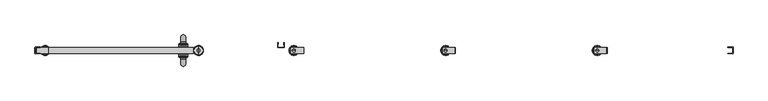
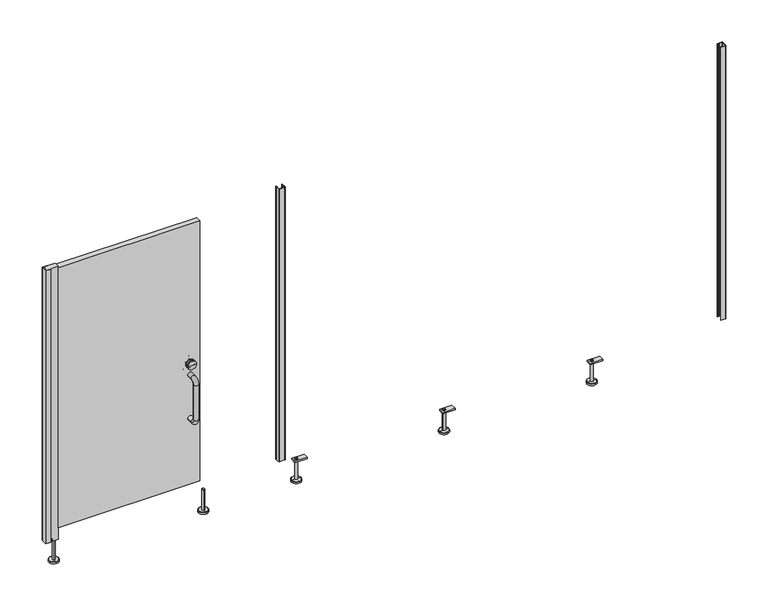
"""IFC4 building model written with IfcOpenShell, lengths in millimetres: proxy geometry, Partition_EuroStyle-Bradley_Corp-ADAStall_3StandardStall-NEP-LOFT : Partition_EuroStyle-Bradley_Corp-ADAStall_3StandardStall-NEP-LOFT."""

from ifc_helpers import new_model, si_unit, point, frame, frame_2d, origin, place, context, project, spatial, polyline, circle_curve, ellipse_curve, trimmed, segment, composite_curve, outline, extrude, source, transform, mapped, element, save
from ifc_brep_helpers import plane_surface, cylinder_surface, revolved_surface, advanced_brep


def specialty_equipment_d99f570f(model_context):
    return source(origin(), model_context, "Body", "SolidModel", [
        extrude(outline(composite_curve([segment(polyline([(4215.7203249, -1562.4911004), (4215.7203249, -1560.9925148)]), True, "CONTINUOUS"), segment(trimmed(circle_curve(frame_2d((4216.719417, -1560.9960822)), 0.9990984), [point((4215.7203249, -1560.9925148))], [point((4217.5991049, -1560.5224296))], False, "CARTESIAN"), True, "CONTINUOUS"), segment(polyline([(4217.5991049, -1560.5224296), (4224.862755, -1560.6435396)]), True, "CONTINUOUS"), segment(trimmed(circle_curve(frame_2d((4225.7202701, -1561.1610855)), 1.0015917), [point((4224.862755, -1560.6435396))], [point((4226.594565, -1560.6724196))], False, "CARTESIAN"), True, "CONTINUOUS"), segment(polyline([(4226.594565, -1560.6724196), (4244.2307782, -1560.9664751)]), True, "CONTINUOUS"), segment(trimmed(circle_curve(frame_2d((4244.2201048, -1558.9662832)), 2.0002204), [point((4244.2307782, -1560.9664751))], [point((4246.2203252, -1558.9662832))], True, "CARTESIAN"), True, "CONTINUOUS"), segment(polyline([(4246.2203252, -1558.9662832), (4246.2203251, -1525.0819842)]), True, "CONTINUOUS"), segment(trimmed(circle_curve(frame_2d((4244.2212312, -1525.0329646)), 1.9996948), [point((4246.2203251, -1525.0819842))], [point((4244.2203251, -1523.03327))], True, "CARTESIAN"), True, "CONTINUOUS"), segment(polyline([(4244.2203251, -1523.03327), (4226.5943238, -1523.3273213)]), True, "CONTINUOUS"), segment(trimmed(circle_curve(frame_2d((4225.7202701, -1522.8382242)), 1.0015917), [point((4226.5943238, -1523.3273213))], [point((4224.862755, -1523.3557701))], False, "CARTESIAN"), True, "CONTINUOUS"), segment(polyline([(4224.862755, -1523.3557701), (4217.5991049, -1523.4768801)]), True, "CONTINUOUS"), segment(trimmed(circle_curve(frame_2d((4216.719417, -1523.0032275)), 0.9990984), [point((4217.5991049, -1523.4768801))], [point((4215.7203249, -1523.0067949))], False, "CARTESIAN"), True, "CONTINUOUS"), segment(polyline([(4215.7203249, -1523.0067949), (4215.7203249, -1521.5082093), (4246.1911451, -1520.9998702)]), True, "CONTINUOUS"), segment(trimmed(circle_curve(frame_2d((4246.1911451, -1523.0290502)), 2.02918), [point((4246.1911451, -1520.9998702))], [point((4248.2203251, -1523.0290502))], False, "CARTESIAN"), True, "CONTINUOUS"), segment(polyline([(4248.2203251, -1523.0290502), (4248.2203251, -1560.9702595)]), True, "CONTINUOUS"), segment(trimmed(circle_curve(frame_2d((4246.1911451, -1560.9702595)), 2.02918), [point((4248.2203251, -1560.9702595))], [point((4246.1911451, -1562.9994395))], False, "CARTESIAN"), True, "CONTINUOUS"), segment(polyline([(4246.1911451, -1562.9994395), (4215.7203249, -1562.4911004)]), True, "CONTINUOUS")], self_intersect=False)), frame((0.0, 0.0, 150.0), z_axis=(0.0, 0.0, 1.0), x_axis=(1.0, 0.0, 0.0)), (0.0, 0.0, 1.0), 1855.0),
        extrude(outline(composite_curve([segment(polyline([(1394.518717, -1491.4999998), (1396.0173026, -1491.4999998)]), True, "CONTINUOUS"), segment(trimmed(circle_curve(frame_2d((1396.0137352, -1492.4990918)), 0.9990984), [point((1396.0173026, -1491.4999998))], [point((1396.4873879, -1493.3787798))], False, "CARTESIAN"), True, "CONTINUOUS"), segment(polyline([(1396.4873879, -1493.3787798), (1396.3662779, -1500.6424298)]), True, "CONTINUOUS"), segment(trimmed(circle_curve(frame_2d((1395.848732, -1501.4999449)), 1.0015917), [point((1396.3662779, -1500.6424298))], [point((1396.3373979, -1502.3742398))], False, "CARTESIAN"), True, "CONTINUOUS"), segment(polyline([(1396.3373979, -1502.3742398), (1396.0433424, -1520.0104531)]), True, "CONTINUOUS"), segment(trimmed(circle_curve(frame_2d((1398.0435342, -1519.9997796)), 2.0002204), [point((1396.0433424, -1520.0104531))], [point((1398.0435342, -1522.0))], True, "CARTESIAN"), True, "CONTINUOUS"), segment(polyline([(1398.0435342, -1522.0), (1431.9278332, -1522.0)]), True, "CONTINUOUS"), segment(trimmed(circle_curve(frame_2d((1431.9768528, -1520.0009061)), 1.9996948), [point((1431.9278332, -1522.0))], [point((1433.9765475, -1520.0))], True, "CARTESIAN"), True, "CONTINUOUS"), segment(polyline([(1433.9765475, -1520.0), (1433.6824961, -1502.3739987)]), True, "CONTINUOUS"), segment(trimmed(circle_curve(frame_2d((1434.1715932, -1501.4999449)), 1.0015917), [point((1433.6824961, -1502.3739987))], [point((1433.6540473, -1500.6424298))], False, "CARTESIAN"), True, "CONTINUOUS"), segment(polyline([(1433.6540473, -1500.6424298), (1433.5329373, -1493.3787798)]), True, "CONTINUOUS"), segment(trimmed(circle_curve(frame_2d((1434.0065899, -1492.4990918)), 0.9990984), [point((1433.5329373, -1493.3787798))], [point((1434.0030225, -1491.4999998))], False, "CARTESIAN"), True, "CONTINUOUS"), segment(polyline([(1434.0030225, -1491.4999998), (1435.5016081, -1491.4999998), (1436.0099473, -1521.97082)]), True, "CONTINUOUS"), segment(trimmed(circle_curve(frame_2d((1433.9807672, -1521.97082)), 2.02918), [point((1436.0099473, -1521.97082))], [point((1433.9807672, -1524.0))], False, "CARTESIAN"), True, "CONTINUOUS"), segment(polyline([(1433.9807672, -1524.0), (1396.0395579, -1524.0)]), True, "CONTINUOUS"), segment(trimmed(circle_curve(frame_2d((1396.0395579, -1521.97082)), 2.02918), [point((1396.0395579, -1524.0))], [point((1394.0103779, -1521.97082))], False, "CARTESIAN"), True, "CONTINUOUS"), segment(polyline([(1394.0103779, -1521.97082), (1394.518717, -1491.4999998)]), True, "CONTINUOUS")], self_intersect=False)), frame((0.0, 0.0, 150.0), z_axis=(0.0, 0.0, 1.0), x_axis=(1.0, 0.0, 0.0)), (0.0, 0.0, 1.0), 1855.0),
        extrude(outline(polyline([(146.0000008, 1477.4203258), (138.0669895, 1477.4203258), (138.0669895, 1557.2675589), (146.0000008, 1557.1689968), (146.0000008, 1477.4203258)])), frame((0.0, -1559.4621549, 0.0), z_axis=(0.0, 1.0, 0.0), x_axis=(0.0, 0.0, 1.0)), (0.0, 0.0, 1.0), 34.925),
        advanced_brep(
        [(1505.0203248, -1541.9996549, 150.0000008), (1487.0203255, -1541.9996549, 150.0000008), (1487.0203255, -1541.9996549, 12.0000001), (1505.0203248, -1541.9996549, 12.0000001), (1496.0203251, -1541.9996549, 150.0000008), (1527.0203241, -1541.9996549, 0.0), (1465.0203262, -1541.9996549, 0.0), (1496.0203251, -1541.9996549, 0.0), (1527.0203241, -1541.9996549, 10.0000001), (1465.0203262, -1541.9996549, 10.0000001), (1525.0179122, -1541.9996549, 12.0000001), (1467.0227381, -1541.9996549, 12.0000001)],
        [
            (0, 1, circle_curve(frame((1496.0203251, -1541.9996549, 150.0000008), z_axis=(0.0, 0.0, -1.0), x_axis=(-1.0, 0.0, 0.0)), 8.9999997)),
            (1, 2),
            (2, 3, circle_curve(frame((1496.0203251, -1541.9996549, 12.0000001), z_axis=(0.0, 0.0, 1.0), x_axis=(-1.0, 0.0, 0.0)), 8.9999997)),
            (3, 0),
            (1, 0, circle_curve(frame((1496.0203251, -1541.9996549, 150.0000008), z_axis=(0.0, 0.0, -1.0), x_axis=(-1.0, 0.0, 0.0)), 8.9999997)),
            (3, 2, circle_curve(frame((1496.0203251, -1541.9996549, 12.0000001), z_axis=(0.0, 0.0, 1.0), x_axis=(-1.0, 0.0, 0.0)), 8.9999997)),
            (4, 1),
            (0, 4),
            (5, 6, circle_curve(frame((1496.0203251, -1541.9996549, 0.0), z_axis=(0.0, 0.0, -1.0), x_axis=(-1.0, 0.0, 0.0)), 30.9999989)),
            (6, 7),
            (7, 5),
            (6, 5, circle_curve(frame((1496.0203251, -1541.9996549, 0.0), z_axis=(0.0, 0.0, -1.0), x_axis=(-1.0, 0.0, 0.0)), 30.9999989)),
            (8, 9, circle_curve(frame((1496.0203251, -1541.9996549, 10.0000001), z_axis=(0.0, 0.0, -1.0), x_axis=(-1.0, 0.0, 0.0)), 30.9999989)),
            (9, 6),
            (5, 8),
            (9, 8, circle_curve(frame((1496.0203251, -1541.9996549, 10.0000001), z_axis=(0.0, 0.0, -1.0), x_axis=(-1.0, 0.0, 0.0)), 30.9999989)),
            (10, 11, circle_curve(frame((1496.0203251, -1541.9996549, 12.0000001), z_axis=(0.0, 0.0, -1.0), x_axis=(-1.0, 0.0, 0.0)), 28.997587)),
            (11, 9),
            (8, 10),
            (11, 10, circle_curve(frame((1496.0203251, -1541.9996549, 12.0000001), z_axis=(0.0, 0.0, -1.0), x_axis=(-1.0, 0.0, 0.0)), 28.997587)),
            (2, 11),
            (10, 3),
        ],
        [
            cylinder_surface(frame((1496.0203251, -1541.9996549, 0.0), z_axis=(0.0, 0.0, 1.0), x_axis=(-1.0, 0.0, 0.0)), 8.9999997),
            plane_surface(frame((1496.0203251, -1541.9996549, 150.0000008), z_axis=(0.0, 0.0, 1.0), x_axis=(-1.0, 0.0, 0.0))),
            plane_surface(frame((1496.0203251, -1541.9996549, 0.0), z_axis=(0.0, 0.0, -1.0), x_axis=(-1.0, 0.0, 0.0))),
            cylinder_surface(frame((1496.0203251, -1541.9996549, 0.0), z_axis=(0.0, 0.0, 1.0), x_axis=(-1.0, 0.0, 0.0)), 30.9999989),
            revolved_surface(polyline([(1465.0203262, -1541.9996549, 10.0000001), (1467.0227381, -1541.9996549, 12.0000001)]), (1496.0203251, -1541.9996549, 0.0), (0.0, 0.0, 1.0)),
            plane_surface(frame((1496.0203251, -1541.9996549, 12.0000001), z_axis=(0.0, 0.0, 1.0), x_axis=(-1.0, 0.0, 0.0))),
        ],
        [
            (0, [[1, 2, 3, 4]]),
            (0, [[5, -4, 6, -2]]),
            (1, [[7, -1, 8]]),
            (1, [[-8, -5, -7]]),
            (2, [[9, 10, 11]]),
            (2, [[12, -11, -10]]),
            (3, [[13, 14, -9, 15]]),
            (3, [[16, -15, -12, -14]]),
            (4, [[17, 18, -13, 19]]),
            (4, [[20, -19, -16, -18]]),
            (5, [[-3, 21, -17, 22]]),
            (5, [[-6, -22, -20, -21]]),
        ],
    ),
        advanced_brep(
        [(787.6001485, -1524.0, 975.0), (817.6001485, -1524.0, 975.0), (787.6001485, -1524.0, 679.0), (817.6001485, -1524.0, 679.0), (817.6001485, -1488.0, 975.0), (787.6001485, -1488.0, 975.0), (817.6001485, -1458.0, 945.0), (817.6001485, -1458.0, 709.0), (787.6001485, -1458.0, 709.0), (787.6001485, -1458.0, 945.0), (817.6001485, -1488.0, 679.0), (787.6001485, -1488.0, 679.0)],
        [
            (0, 1, circle_curve(frame((802.6001485, -1524.0, 975.0), z_axis=(0.0, -1.0, 0.0), x_axis=(1.0, 0.0, 0.0)), 15.0)),
            (1, 0, circle_curve(frame((802.6001485, -1524.0, 975.0), z_axis=(0.0, -1.0, 0.0), x_axis=(1.0, 0.0, 0.0)), 15.0)),
            (2, 3, circle_curve(frame((802.6001485, -1524.0, 679.0), z_axis=(0.0, -1.0, 0.0), x_axis=(1.0, 0.0, 0.0)), 15.0)),
            (3, 2, circle_curve(frame((802.6001485, -1524.0, 679.0), z_axis=(0.0, -1.0, 0.0), x_axis=(1.0, 0.0, 0.0)), 15.0)),
            (1, 4),
            (4, 5, circle_curve(frame((802.6001485, -1488.0, 975.0), z_axis=(0.0, -1.0, 0.0), x_axis=(1.0, 0.0, 0.0)), 15.0)),
            (5, 0),
            (5, 4, circle_curve(frame((802.6001485, -1488.0, 975.0), z_axis=(0.0, -1.0, 0.0), x_axis=(1.0, 0.0, 0.0)), 15.0)),
            (6, 7),
            (7, 8, circle_curve(frame((802.6001485, -1458.0, 709.0), z_axis=(0.0, 0.0, 1.0), x_axis=(1.0, 0.0, 0.0)), 15.0)),
            (8, 9),
            (9, 6, circle_curve(frame((802.6001485, -1458.0, 945.0), z_axis=(0.0, 0.0, -1.0), x_axis=(1.0, 0.0, 0.0)), 15.0)),
            (8, 7, circle_curve(frame((802.6001485, -1458.0, 709.0), z_axis=(0.0, 0.0, 1.0), x_axis=(1.0, 0.0, 0.0)), 15.0)),
            (6, 9, circle_curve(frame((802.6001485, -1458.0, 945.0), z_axis=(0.0, 0.0, -1.0), x_axis=(1.0, 0.0, 0.0)), 15.0)),
            (10, 3),
            (2, 11),
            (11, 10, circle_curve(frame((802.6001485, -1488.0, 679.0), z_axis=(0.0, -1.0, 0.0), x_axis=(1.0, 0.0, 0.0)), 15.0)),
            (10, 11, circle_curve(frame((802.6001485, -1488.0, 679.0), z_axis=(0.0, -1.0, 0.0), x_axis=(1.0, 0.0, 0.0)), 15.0)),
            (9, 5, circle_curve(frame((787.6001485, -1488.0, 945.0), z_axis=(1.0, 0.0, 0.0), x_axis=(0.0, 0.0, 1.0)), 30.0)),
            (4, 6, circle_curve(frame((817.6001485, -1488.0, 945.0), z_axis=(-1.0, 0.0, 0.0), x_axis=(0.0, 0.0, 1.0)), 30.0)),
            (11, 8, circle_curve(frame((787.6001485, -1488.0, 709.0), z_axis=(1.0, 0.0, 0.0), x_axis=(0.0, 1.0, 0.0)), 30.0)),
            (7, 10, circle_curve(frame((817.6001485, -1488.0, 709.0), z_axis=(-1.0, 0.0, 0.0), x_axis=(0.0, 1.0, 0.0)), 30.0)),
        ],
        [
            plane_surface(frame((802.6001485, -1524.0, 975.0), z_axis=(0.0, -1.0, 0.0), x_axis=(1.0, 0.0, 0.0))),
            plane_surface(frame((802.6001485, -1524.0, 679.0), z_axis=(0.0, -1.0, 0.0), x_axis=(1.0, 0.0, 0.0))),
            cylinder_surface(frame((802.6001485, -1524.0, 975.0), z_axis=(0.0, -1.0, 0.0), x_axis=(1.0, 0.0, 0.0)), 15.0),
            cylinder_surface(frame((802.6001485, -1458.0, 945.0), z_axis=(0.0, 0.0, 1.0), x_axis=(1.0, 0.0, 0.0)), 15.0),
            cylinder_surface(frame((802.6001485, -1488.0, 679.0), z_axis=(0.0, 1.0, 0.0), x_axis=(1.0, 0.0, 0.0)), 15.0),
            revolved_surface(trimmed(ellipse_curve(frame((802.6001485, -1488.0, 975.0), z_axis=(0.0, 1.0, 0.0), x_axis=(1.0, 0.0, 0.0)), 15.0, 15.0), [point((787.6001485, -1488.0, 975.0))], [point((817.6001485, -1488.0, 975.0))], True, "CARTESIAN"), (802.6001485, -1488.0, 945.0), (1.0, 0.0, 0.0)),
            revolved_surface(trimmed(ellipse_curve(frame((802.6001485, -1488.0, 975.0), z_axis=(0.0, 1.0, 0.0), x_axis=(1.0, 0.0, 0.0)), 15.0, 15.0), [point((817.6001485, -1488.0, 975.0))], [point((787.6001485, -1488.0, 975.0))], True, "CARTESIAN"), (802.6001485, -1488.0, 945.0), (1.0, 0.0, 0.0)),
            revolved_surface(trimmed(ellipse_curve(frame((802.6001485, -1458.0, 709.0), z_axis=(0.0, 0.0, -1.0), x_axis=(1.0, 0.0, 0.0)), 15.0, 15.0), [point((787.6001485, -1458.0, 709.0))], [point((817.6001485, -1458.0, 709.0))], True, "CARTESIAN"), (802.6001485, -1488.0, 709.0), (1.0, 0.0, 0.0)),
            revolved_surface(trimmed(ellipse_curve(frame((802.6001485, -1458.0, 709.0), z_axis=(0.0, 0.0, -1.0), x_axis=(1.0, 0.0, 0.0)), 15.0, 15.0), [point((817.6001485, -1458.0, 709.0))], [point((787.6001485, -1458.0, 709.0))], True, "CARTESIAN"), (802.6001485, -1488.0, 709.0), (1.0, 0.0, 0.0)),
        ],
        [
            (0, [[1, 2]]),
            (1, [[3, 4]]),
            (2, [[5, 6, 7, -2]]),
            (2, [[-7, 8, -5, -1]]),
            (3, [[9, 10, 11, 12]]),
            (3, [[-11, 13, -9, 14]]),
            (4, [[15, -3, 16, 17]]),
            (4, [[-16, -4, -15, 18]]),
            (5, [[-12, 19, -6, 20]]),
            (6, [[-14, -20, -8, -19]]),
            (7, [[-17, 21, -10, 22]]),
            (8, [[-18, -22, -13, -21]]),
        ],
    ),
        advanced_brep(
        [(787.6001485, -1560.0203251, 975.0), (817.6001485, -1560.0203251, 975.0), (787.6001485, -1560.0203251, 679.0), (817.6001485, -1560.0203251, 679.0), (787.6001485, -1596.0203251, 975.0), (817.6001485, -1596.0203251, 975.0), (817.6001485, -1626.0203251, 945.0), (787.6001485, -1626.0203251, 945.0), (787.6001485, -1626.0203251, 709.0), (817.6001485, -1626.0203251, 709.0), (817.6001485, -1596.0203251, 679.0), (787.6001485, -1596.0203251, 679.0)],
        [
            (0, 1, circle_curve(frame((802.6001485, -1560.0203251, 975.0), z_axis=(0.0, 1.0, 0.0), x_axis=(1.0, 0.0, 0.0)), 15.0)),
            (1, 0, circle_curve(frame((802.6001485, -1560.0203251, 975.0), z_axis=(0.0, 1.0, 0.0), x_axis=(1.0, 0.0, 0.0)), 15.0)),
            (2, 3, circle_curve(frame((802.6001485, -1560.0203251, 679.0), z_axis=(0.0, 1.0, 0.0), x_axis=(1.0, 0.0, 0.0)), 15.0)),
            (3, 2, circle_curve(frame((802.6001485, -1560.0203251, 679.0), z_axis=(0.0, 1.0, 0.0), x_axis=(1.0, 0.0, 0.0)), 15.0)),
            (0, 4),
            (4, 5, circle_curve(frame((802.6001485, -1596.0203251, 975.0), z_axis=(0.0, 1.0, 0.0), x_axis=(1.0, 0.0, 0.0)), 15.0)),
            (5, 1),
            (5, 4, circle_curve(frame((802.6001485, -1596.0203251, 975.0), z_axis=(0.0, 1.0, 0.0), x_axis=(1.0, 0.0, 0.0)), 15.0)),
            (6, 7, circle_curve(frame((802.6001485, -1626.0203251, 945.0), z_axis=(0.0, 0.0, -1.0), x_axis=(1.0, 0.0, 0.0)), 15.0)),
            (7, 8),
            (8, 9, circle_curve(frame((802.6001485, -1626.0203251, 709.0), z_axis=(0.0, 0.0, 1.0), x_axis=(1.0, 0.0, 0.0)), 15.0)),
            (9, 6),
            (7, 6, circle_curve(frame((802.6001485, -1626.0203251, 945.0), z_axis=(0.0, 0.0, -1.0), x_axis=(1.0, 0.0, 0.0)), 15.0)),
            (9, 8, circle_curve(frame((802.6001485, -1626.0203251, 709.0), z_axis=(0.0, 0.0, 1.0), x_axis=(1.0, 0.0, 0.0)), 15.0)),
            (10, 11, circle_curve(frame((802.6001485, -1596.0203251, 679.0), z_axis=(0.0, 1.0, 0.0), x_axis=(1.0, 0.0, 0.0)), 15.0)),
            (11, 2),
            (3, 10),
            (11, 10, circle_curve(frame((802.6001485, -1596.0203251, 679.0), z_axis=(0.0, 1.0, 0.0), x_axis=(1.0, 0.0, 0.0)), 15.0)),
            (6, 5, circle_curve(frame((817.6001485, -1596.0203251, 945.0), z_axis=(-1.0, 0.0, 0.0), x_axis=(0.0, 0.0, 1.0)), 30.0)),
            (4, 7, circle_curve(frame((787.6001485, -1596.0203251, 945.0), z_axis=(1.0, 0.0, 0.0), x_axis=(0.0, 0.0, 1.0)), 30.0)),
            (10, 9, circle_curve(frame((817.6001485, -1596.0203251, 709.0), z_axis=(-1.0, 0.0, 0.0), x_axis=(0.0, -1.0, 0.0)), 30.0)),
            (8, 11, circle_curve(frame((787.6001485, -1596.0203251, 709.0), z_axis=(1.0, 0.0, 0.0), x_axis=(0.0, -1.0, 0.0)), 30.0)),
        ],
        [
            plane_surface(frame((802.6001485, -1560.0203251, 975.0), z_axis=(0.0, 1.0, 0.0), x_axis=(1.0, 0.0, 0.0))),
            plane_surface(frame((802.6001485, -1560.0203251, 679.0), z_axis=(0.0, 1.0, 0.0), x_axis=(1.0, 0.0, 0.0))),
            cylinder_surface(frame((802.6001485, -1560.0203251, 975.0), z_axis=(0.0, 1.0, 0.0), x_axis=(1.0, 0.0, 0.0)), 15.0),
            cylinder_surface(frame((802.6001485, -1626.0203251, 945.0), z_axis=(0.0, 0.0, 1.0), x_axis=(1.0, 0.0, 0.0)), 15.0),
            cylinder_surface(frame((802.6001485, -1596.0203251, 679.0), z_axis=(0.0, -1.0, 0.0), x_axis=(1.0, 0.0, 0.0)), 15.0),
            revolved_surface(trimmed(ellipse_curve(frame((802.6001485, -1596.0203251, 975.0), z_axis=(0.0, 1.0, 0.0), x_axis=(1.0, 0.0, 0.0)), 15.0, 15.0), [point((787.6001485, -1596.0203251, 975.0))], [point((817.6001485, -1596.0203251, 975.0))], True, "CARTESIAN"), (802.6001485, -1596.0203251, 945.0), (1.0, 0.0, 0.0)),
            revolved_surface(trimmed(ellipse_curve(frame((802.6001485, -1596.0203251, 975.0), z_axis=(0.0, 1.0, 0.0), x_axis=(1.0, 0.0, 0.0)), 15.0, 15.0), [point((817.6001485, -1596.0203251, 975.0))], [point((787.6001485, -1596.0203251, 975.0))], True, "CARTESIAN"), (802.6001485, -1596.0203251, 945.0), (1.0, 0.0, 0.0)),
            revolved_surface(trimmed(ellipse_curve(frame((802.6001485, -1626.0203251, 709.0), z_axis=(0.0, 0.0, 1.0), x_axis=(1.0, 0.0, 0.0)), 15.0, 15.0), [point((787.6001485, -1626.0203251, 709.0))], [point((817.6001485, -1626.0203251, 709.0))], True, "CARTESIAN"), (802.6001485, -1596.0203251, 709.0), (1.0, 0.0, 0.0)),
            revolved_surface(trimmed(ellipse_curve(frame((802.6001485, -1626.0203251, 709.0), z_axis=(0.0, 0.0, 1.0), x_axis=(1.0, 0.0, 0.0)), 15.0, 15.0), [point((817.6001485, -1626.0203251, 709.0))], [point((787.6001485, -1626.0203251, 709.0))], True, "CARTESIAN"), (802.6001485, -1596.0203251, 709.0), (1.0, 0.0, 0.0)),
        ],
        [
            (0, [[1, 2]]),
            (1, [[3, 4]]),
            (2, [[-1, 5, 6, 7]]),
            (2, [[-2, -7, 8, -5]]),
            (3, [[9, 10, 11, 12]]),
            (3, [[13, -12, 14, -10]]),
            (4, [[15, 16, -4, 17]]),
            (4, [[18, -17, -3, -16]]),
            (5, [[19, -6, 20, -9]]),
            (6, [[-20, -8, -19, -13]]),
            (7, [[21, -11, 22, -15]]),
            (8, [[-22, -14, -21, -18]]),
        ],
    ),
        advanced_brep(
        [(774.0251485, -1524.0203251, 1050.0), (831.1751485, -1524.0203251, 1050.0), (802.6001485, -1524.0203251, 1050.0), (774.0251485, -1519.2578251, 1050.0), (831.1751485, -1519.2578251, 1050.0), (774.0251485, -1500.2078251, 1050.0), (831.1751485, -1500.2078251, 1050.0), (831.1751485, -1504.9703251, 1050.0), (774.0251485, -1504.9703251, 1050.0), (829.5876485, -1506.5578251, 1050.0), (775.6126485, -1506.5578251, 1050.0), (829.5876485, -1517.6703251, 1050.0), (775.6126485, -1517.6703251, 1050.0), (802.6001485, -1498.6203251, 1050.0)],
        [
            (0, 1, circle_curve(frame((802.6001485, -1524.0203251, 1050.0), z_axis=(0.0, -1.0, 0.0), x_axis=(1.0, 0.0, 0.0)), 28.575)),
            (1, 2),
            (2, 0),
            (1, 0, circle_curve(frame((802.6001485, -1524.0203251, 1050.0), z_axis=(0.0, -1.0, 0.0), x_axis=(1.0, 0.0, 0.0)), 28.575)),
            (3, 4, circle_curve(frame((802.6001485, -1519.2578251, 1050.0), z_axis=(0.0, -1.0, 0.0), x_axis=(1.0, 0.0, 0.0)), 28.575)),
            (4, 1),
            (0, 3),
            (4, 3, circle_curve(frame((802.6001485, -1519.2578251, 1050.0), z_axis=(0.0, -1.0, 0.0), x_axis=(1.0, 0.0, 0.0)), 28.575)),
            (5, 6, circle_curve(frame((802.6001485, -1500.2078251, 1050.0), z_axis=(0.0, -1.0, 0.0), x_axis=(1.0, 0.0, 0.0)), 28.575)),
            (6, 7),
            (7, 8, circle_curve(frame((802.6001485, -1504.9703251, 1050.0), z_axis=(0.0, 1.0, 0.0), x_axis=(1.0, 0.0, 0.0)), 28.575)),
            (8, 5),
            (6, 5, circle_curve(frame((802.6001485, -1500.2078251, 1050.0), z_axis=(0.0, -1.0, 0.0), x_axis=(1.0, 0.0, 0.0)), 28.575)),
            (8, 7, circle_curve(frame((802.6001485, -1504.9703251, 1050.0), z_axis=(0.0, 1.0, 0.0), x_axis=(1.0, 0.0, 0.0)), 28.575)),
            (7, 9, circle_curve(frame((831.1751485, -1506.5578251, 1050.0), z_axis=(0.0, 0.0, 1.0), x_axis=(1.0, 0.0, 0.0)), 1.5875)),
            (9, 10, circle_curve(frame((802.6001485, -1506.5578251, 1050.0), z_axis=(0.0, 1.0, 0.0), x_axis=(1.0, 0.0, 0.0)), 26.9875)),
            (10, 8, circle_curve(frame((774.0251485, -1506.5578251, 1050.0), z_axis=(0.0, 0.0, 1.0), x_axis=(-1.0, 0.0, 0.0)), 1.5875)),
            (10, 9, circle_curve(frame((802.6001485, -1506.5578251, 1050.0), z_axis=(0.0, 1.0, 0.0), x_axis=(1.0, 0.0, 0.0)), 26.9875)),
            (9, 11),
            (11, 12, circle_curve(frame((802.6001485, -1517.6703251, 1050.0), z_axis=(0.0, 1.0, 0.0), x_axis=(1.0, 0.0, 0.0)), 26.9875)),
            (12, 10),
            (12, 11, circle_curve(frame((802.6001485, -1517.6703251, 1050.0), z_axis=(0.0, 1.0, 0.0), x_axis=(1.0, 0.0, 0.0)), 26.9875)),
            (11, 4, circle_curve(frame((831.1751485, -1517.6703251, 1050.0), z_axis=(0.0, 0.0, 1.0), x_axis=(1.0, 0.0, 0.0)), 1.5875)),
            (3, 12, circle_curve(frame((774.0251485, -1517.6703251, 1050.0), z_axis=(0.0, 0.0, 1.0), x_axis=(-1.0, 0.0, 0.0)), 1.5875)),
            (13, 6, circle_curve(frame((806.2942719, -1690.0948544, 1050.0), z_axis=(0.0, 0.0, -1.0), x_axis=(1.0, 0.0, 0.0)), 191.5101613)),
            (5, 13, circle_curve(frame((798.9060251, -1690.0948544, 1050.0), z_axis=(0.0, 0.0, -1.0), x_axis=(-1.0, 0.0, 0.0)), 191.5101613)),
        ],
        [
            plane_surface(frame((802.6001485, -1524.0203251, 1050.0), z_axis=(0.0, -1.0, 0.0), x_axis=(1.0, 0.0, 0.0))),
            cylinder_surface(frame((802.6001485, -1524.0203251, 1050.0), z_axis=(0.0, 1.0, 0.0), x_axis=(1.0, 0.0, 0.0)), 28.575),
            revolved_surface(trimmed(ellipse_curve(frame((831.1751485, -1506.5578251, 1050.0), z_axis=(0.0, 0.0, -1.0), x_axis=(1.0, 0.0, 0.0)), 1.5875, 1.5875), [point((829.5876485, -1506.5578251, 1050.0))], [point((831.1751485, -1504.9703251, 1050.0))], True, "CARTESIAN"), (802.6001485, -1524.0203251, 1050.0), (0.0, 1.0, 0.0)),
            cylinder_surface(frame((802.6001485, -1524.0203251, 1050.0), z_axis=(0.0, 1.0, 0.0), x_axis=(1.0, 0.0, 0.0)), 26.9875),
            revolved_surface(trimmed(ellipse_curve(frame((831.1751485, -1517.6703251, 1050.0), z_axis=(0.0, 0.0, -1.0), x_axis=(1.0, 0.0, 0.0)), 1.5875, 1.5875), [point((831.1751485, -1519.2578251, 1050.0))], [point((829.5876485, -1517.6703251, 1050.0))], True, "CARTESIAN"), (802.6001485, -1524.0203251, 1050.0), (0.0, 1.0, 0.0)),
            revolved_surface(trimmed(ellipse_curve(frame((806.2942719, -1690.0948544, 1050.0), z_axis=(0.0, 0.0, 1.0), x_axis=(1.0, 0.0, 0.0)), 191.5101613, 191.5101613), [point((831.1751485, -1500.2078251, 1050.0))], [point((802.6001485, -1498.6203251, 1050.0))], True, "CARTESIAN"), (802.6001485, -1524.0203251, 1050.0), (0.0, 1.0, 0.0)),
        ],
        [
            (0, [[1, 2, 3]]),
            (0, [[4, -3, -2]]),
            (1, [[5, 6, -1, 7]]),
            (1, [[8, -7, -4, -6]]),
            (1, [[9, 10, 11, 12]]),
            (1, [[13, -12, 14, -10]]),
            (2, [[-11, 15, 16, 17]]),
            (2, [[-14, -17, 18, -15]]),
            (3, [[-16, 19, 20, 21]]),
            (3, [[-18, -21, 22, -19]]),
            (4, [[-20, 23, -5, 24]]),
            (4, [[-22, -24, -8, -23]]),
            (5, [[25, -9, 26]]),
            (5, [[-26, -13, -25]]),
        ],
    ),
        advanced_brep(
        [(802.6001485, -1560.0203251, 1050.0), (831.1751485, -1560.0203251, 1050.0), (774.0251485, -1560.0203251, 1050.0), (831.1751485, -1564.7828251, 1050.0), (774.0251485, -1564.7828251, 1050.0), (774.0251485, -1579.0703251, 1050.0), (831.1751485, -1579.0703251, 1050.0), (831.1751485, -1583.8328251, 1050.0), (774.0251485, -1583.8328251, 1050.0), (775.6126485, -1577.4828251, 1050.0), (829.5876485, -1577.4828251, 1050.0), (775.6126485, -1566.3703251, 1050.0), (829.5876485, -1566.3703251, 1050.0), (802.6001485, -1585.4203251, 1050.0)],
        [
            (0, 1),
            (1, 2, circle_curve(frame((802.6001485, -1560.0203251, 1050.0), z_axis=(0.0, 1.0, 0.0), x_axis=(1.0, 0.0, 0.0)), 28.575)),
            (2, 0),
            (2, 1, circle_curve(frame((802.6001485, -1560.0203251, 1050.0), z_axis=(0.0, 1.0, 0.0), x_axis=(1.0, 0.0, 0.0)), 28.575)),
            (1, 3),
            (3, 4, circle_curve(frame((802.6001485, -1564.7828251, 1050.0), z_axis=(0.0, 1.0, 0.0), x_axis=(1.0, 0.0, 0.0)), 28.575)),
            (4, 2),
            (4, 3, circle_curve(frame((802.6001485, -1564.7828251, 1050.0), z_axis=(0.0, 1.0, 0.0), x_axis=(1.0, 0.0, 0.0)), 28.575)),
            (5, 6, circle_curve(frame((802.6001485, -1579.0703251, 1050.0), z_axis=(0.0, -1.0, 0.0), x_axis=(1.0, 0.0, 0.0)), 28.575)),
            (6, 7),
            (7, 8, circle_curve(frame((802.6001485, -1583.8328251, 1050.0), z_axis=(0.0, 1.0, 0.0), x_axis=(1.0, 0.0, 0.0)), 28.575)),
            (8, 5),
            (6, 5, circle_curve(frame((802.6001485, -1579.0703251, 1050.0), z_axis=(0.0, -1.0, 0.0), x_axis=(1.0, 0.0, 0.0)), 28.575)),
            (8, 7, circle_curve(frame((802.6001485, -1583.8328251, 1050.0), z_axis=(0.0, 1.0, 0.0), x_axis=(1.0, 0.0, 0.0)), 28.575)),
            (9, 10, circle_curve(frame((802.6001485, -1577.4828251, 1050.0), z_axis=(0.0, -1.0, 0.0), x_axis=(1.0, 0.0, 0.0)), 26.9875)),
            (10, 6, circle_curve(frame((831.1751485, -1577.4828251, 1050.0), z_axis=(0.0, 0.0, 1.0), x_axis=(1.0, 0.0, 0.0)), 1.5875)),
            (5, 9, circle_curve(frame((774.0251485, -1577.4828251, 1050.0), z_axis=(0.0, 0.0, 1.0), x_axis=(-1.0, 0.0, 0.0)), 1.5875)),
            (10, 9, circle_curve(frame((802.6001485, -1577.4828251, 1050.0), z_axis=(0.0, -1.0, 0.0), x_axis=(1.0, 0.0, 0.0)), 26.9875)),
            (11, 12, circle_curve(frame((802.6001485, -1566.3703251, 1050.0), z_axis=(0.0, -1.0, 0.0), x_axis=(1.0, 0.0, 0.0)), 26.9875)),
            (12, 10),
            (9, 11),
            (12, 11, circle_curve(frame((802.6001485, -1566.3703251, 1050.0), z_axis=(0.0, -1.0, 0.0), x_axis=(1.0, 0.0, 0.0)), 26.9875)),
            (3, 12, circle_curve(frame((831.1751485, -1566.3703251, 1050.0), z_axis=(0.0, 0.0, 1.0), x_axis=(1.0, 0.0, 0.0)), 1.5875)),
            (11, 4, circle_curve(frame((774.0251485, -1566.3703251, 1050.0), z_axis=(0.0, 0.0, 1.0), x_axis=(-1.0, 0.0, 0.0)), 1.5875)),
            (7, 13, circle_curve(frame((806.2942719, -1393.9457959, 1050.0), z_axis=(0.0, 0.0, -1.0), x_axis=(1.0, 0.0, 0.0)), 191.5101613)),
            (13, 8, circle_curve(frame((798.9060251, -1393.9457959, 1050.0), z_axis=(0.0, 0.0, -1.0), x_axis=(-1.0, 0.0, 0.0)), 191.5101613)),
        ],
        [
            plane_surface(frame((802.6001485, -1560.0203251, 1050.0), z_axis=(0.0, 1.0, 0.0), x_axis=(1.0, 0.0, 0.0))),
            cylinder_surface(frame((802.6001485, -1560.0203251, 1050.0), z_axis=(0.0, 1.0, 0.0), x_axis=(1.0, 0.0, 0.0)), 28.575),
            revolved_surface(trimmed(ellipse_curve(frame((831.1751485, -1577.4828251, 1050.0), z_axis=(0.0, 0.0, -1.0), x_axis=(1.0, 0.0, 0.0)), 1.5875, 1.5875), [point((831.1751485, -1579.0703251, 1050.0))], [point((829.5876485, -1577.4828251, 1050.0))], True, "CARTESIAN"), (802.6001485, -1560.0203251, 1050.0), (0.0, 1.0, 0.0)),
            cylinder_surface(frame((802.6001485, -1560.0203251, 1050.0), z_axis=(0.0, 1.0, 0.0), x_axis=(1.0, 0.0, 0.0)), 26.9875),
            revolved_surface(trimmed(ellipse_curve(frame((831.1751485, -1566.3703251, 1050.0), z_axis=(0.0, 0.0, -1.0), x_axis=(1.0, 0.0, 0.0)), 1.5875, 1.5875), [point((829.5876485, -1566.3703251, 1050.0))], [point((831.1751485, -1564.7828251, 1050.0))], True, "CARTESIAN"), (802.6001485, -1560.0203251, 1050.0), (0.0, 1.0, 0.0)),
            revolved_surface(trimmed(ellipse_curve(frame((806.2942719, -1393.9457959, 1050.0), z_axis=(0.0, 0.0, 1.0), x_axis=(1.0, 0.0, 0.0)), 191.5101613, 191.5101613), [point((802.6001485, -1585.4203251, 1050.0))], [point((831.1751485, -1583.8328251, 1050.0))], True, "CARTESIAN"), (802.6001485, -1560.0203251, 1050.0), (0.0, 1.0, 0.0)),
        ],
        [
            (0, [[1, 2, 3]]),
            (0, [[-3, 4, -1]]),
            (1, [[-2, 5, 6, 7]]),
            (1, [[-4, -7, 8, -5]]),
            (1, [[9, 10, 11, 12]]),
            (1, [[13, -12, 14, -10]]),
            (2, [[15, 16, -9, 17]]),
            (2, [[18, -17, -13, -16]]),
            (3, [[19, 20, -15, 21]]),
            (3, [[22, -21, -18, -20]]),
            (4, [[-6, 23, -19, 24]]),
            (4, [[-8, -24, -22, -23]]),
            (5, [[-11, 25, 26]]),
            (5, [[-14, -26, -25]]),
        ],
    ),
        extrude(outline(polyline([(-43.0030863, -1524.0), (866.1001485, -1524.0), (866.1001485, -1560.0203251), (-43.0030863, -1560.0203251), (-43.0030863, -1524.0)])), frame((0.0, 0.0, 228.6), z_axis=(0.0, 0.0, 1.0), x_axis=(1.0, 0.0, 0.0)), (0.0, 0.0, 1.0), 1767.4),
        advanced_brep(
        [(-63.5018313, -1533.0101629, 150.0000008), (-63.5018313, -1551.0101623, 150.0000008), (-63.5018313, -1551.0101623, 12.0000001), (-63.5018313, -1533.0101629, 12.0000001), (-63.5018313, -1542.0101626, 150.0000008), (-63.5018313, -1511.0101636, 0.0), (-63.5018313, -1573.0101615, 0.0), (-63.5018313, -1542.0101626, 0.0), (-63.5018313, -1511.0101636, 10.0000001), (-63.5018313, -1573.0101615, 10.0000001), (-63.5018313, -1513.0125756, 12.0000001), (-63.5018313, -1571.0077496, 12.0000001)],
        [
            (0, 1, circle_curve(frame((-63.5018313, -1542.0101626, 150.0000008), z_axis=(0.0, 0.0, -1.0), x_axis=(0.0, -1.0, 0.0)), 8.9999997)),
            (1, 2),
            (2, 3, circle_curve(frame((-63.5018313, -1542.0101626, 12.0000001), z_axis=(0.0, 0.0, 1.0), x_axis=(0.0, -1.0, 0.0)), 8.9999997)),
            (3, 0),
            (1, 0, circle_curve(frame((-63.5018313, -1542.0101626, 150.0000008), z_axis=(0.0, 0.0, -1.0), x_axis=(0.0, -1.0, 0.0)), 8.9999997)),
            (3, 2, circle_curve(frame((-63.5018313, -1542.0101626, 12.0000001), z_axis=(0.0, 0.0, 1.0), x_axis=(0.0, -1.0, 0.0)), 8.9999997)),
            (4, 1),
            (0, 4),
            (5, 6, circle_curve(frame((-63.5018313, -1542.0101626, 0.0), z_axis=(0.0, 0.0, -1.0), x_axis=(0.0, -1.0, 0.0)), 30.9999989)),
            (6, 7),
            (7, 5),
            (6, 5, circle_curve(frame((-63.5018313, -1542.0101626, 0.0), z_axis=(0.0, 0.0, -1.0), x_axis=(0.0, -1.0, 0.0)), 30.9999989)),
            (8, 9, circle_curve(frame((-63.5018313, -1542.0101626, 10.0000001), z_axis=(0.0, 0.0, -1.0), x_axis=(0.0, -1.0, 0.0)), 30.9999989)),
            (9, 6),
            (5, 8),
            (9, 8, circle_curve(frame((-63.5018313, -1542.0101626, 10.0000001), z_axis=(0.0, 0.0, -1.0), x_axis=(0.0, -1.0, 0.0)), 30.9999989)),
            (10, 11, circle_curve(frame((-63.5018313, -1542.0101626, 12.0000001), z_axis=(0.0, 0.0, -1.0), x_axis=(0.0, -1.0, 0.0)), 28.997587)),
            (11, 9),
            (8, 10),
            (11, 10, circle_curve(frame((-63.5018313, -1542.0101626, 12.0000001), z_axis=(0.0, 0.0, -1.0), x_axis=(0.0, -1.0, 0.0)), 28.997587)),
            (2, 11),
            (10, 3),
        ],
        [
            cylinder_surface(frame((-63.5018313, -1542.0101626, 0.0), z_axis=(0.0, 0.0, 1.0), x_axis=(0.0, -1.0, 0.0)), 8.9999997),
            plane_surface(frame((-63.5018313, -1542.0101626, 150.0000008), z_axis=(0.0, 0.0, 1.0), x_axis=(0.0, -1.0, 0.0))),
            plane_surface(frame((-63.5018313, -1542.0101626, 0.0), z_axis=(0.0, 0.0, -1.0), x_axis=(0.0, -1.0, 0.0))),
            cylinder_surface(frame((-63.5018313, -1542.0101626, 0.0), z_axis=(0.0, 0.0, 1.0), x_axis=(0.0, -1.0, 0.0)), 30.9999989),
            revolved_surface(polyline([(-63.5018313, -1573.0101615, 10.0000001), (-63.5018313, -1571.0077496, 12.0000001)]), (-63.5018313, -1542.0101626, 0.0), (0.0, 0.0, 1.0)),
            plane_surface(frame((-63.5018313, -1542.0101626, 12.0000001), z_axis=(0.0, 0.0, 1.0), x_axis=(0.0, -1.0, 0.0))),
        ],
        [
            (0, [[1, 2, 3, 4]]),
            (0, [[5, -4, 6, -2]]),
            (1, [[7, -1, 8]]),
            (1, [[-8, -5, -7]]),
            (2, [[9, 10, 11]]),
            (2, [[12, -11, -10]]),
            (3, [[13, 14, -9, 15]]),
            (3, [[16, -15, -12, -14]]),
            (4, [[17, 18, -13, 19]]),
            (4, [[20, -19, -16, -18]]),
            (5, [[-3, 21, -17, 22]]),
            (5, [[-6, -22, -20, -21]]),
        ],
    ),
        extrude(outline(composite_curve([segment(polyline([(-94.4999998, -1521.518717), (-94.4999998, -1523.0173026)]), True, "CONTINUOUS"), segment(trimmed(circle_curve(frame_2d((-95.4990918, -1523.0137352)), 0.9990984), [point((-94.4999998, -1523.0173026))], [point((-96.3787798, -1523.4873879))], False, "CARTESIAN"), True, "CONTINUOUS"), segment(polyline([(-96.3787798, -1523.4873879), (-103.6424298, -1523.3662779)]), True, "CONTINUOUS"), segment(trimmed(circle_curve(frame_2d((-104.4999449, -1522.848732)), 1.0015917), [point((-103.6424298, -1523.3662779))], [point((-105.3742398, -1523.3373979))], False, "CARTESIAN"), True, "CONTINUOUS"), segment(polyline([(-105.3742398, -1523.3373979), (-123.0104531, -1523.0433424)]), True, "CONTINUOUS"), segment(trimmed(circle_curve(frame_2d((-122.9997796, -1525.0435342)), 2.0002204), [point((-123.0104531, -1523.0433424))], [point((-125.0, -1525.0435342))], True, "CARTESIAN"), True, "CONTINUOUS"), segment(polyline([(-125.0, -1525.0435342), (-125.0, -1558.9278332)]), True, "CONTINUOUS"), segment(trimmed(circle_curve(frame_2d((-123.0009061, -1558.9768528)), 1.9996948), [point((-125.0, -1558.9278332))], [point((-123.0, -1560.9765475))], True, "CARTESIAN"), True, "CONTINUOUS"), segment(polyline([(-123.0, -1560.9765475), (-105.3739987, -1560.6824961)]), True, "CONTINUOUS"), segment(trimmed(circle_curve(frame_2d((-104.4999449, -1561.1715932)), 1.0015917), [point((-105.3739987, -1560.6824961))], [point((-103.6424298, -1560.6540473))], False, "CARTESIAN"), True, "CONTINUOUS"), segment(polyline([(-103.6424298, -1560.6540473), (-96.3787798, -1560.5329373)]), True, "CONTINUOUS"), segment(trimmed(circle_curve(frame_2d((-95.4990918, -1561.0065899)), 0.9990984), [point((-96.3787798, -1560.5329373))], [point((-94.4999998, -1561.0030225))], False, "CARTESIAN"), True, "CONTINUOUS"), segment(polyline([(-94.4999998, -1561.0030225), (-94.4999998, -1562.5016081), (-124.97082, -1563.0099473)]), True, "CONTINUOUS"), segment(trimmed(circle_curve(frame_2d((-124.97082, -1560.9807672)), 2.02918), [point((-124.97082, -1563.0099473))], [point((-127.0, -1560.9807672))], False, "CARTESIAN"), True, "CONTINUOUS"), segment(polyline([(-127.0, -1560.9807672), (-127.0, -1523.0395579)]), True, "CONTINUOUS"), segment(trimmed(circle_curve(frame_2d((-124.97082, -1523.0395579)), 2.02918), [point((-127.0, -1523.0395579))], [point((-124.97082, -1521.0103779))], False, "CARTESIAN"), True, "CONTINUOUS"), segment(polyline([(-124.97082, -1521.0103779), (-94.4999998, -1521.518717)]), True, "CONTINUOUS")], self_intersect=False)), frame((0.0, 0.0, 150.0), z_axis=(0.0, 0.0, 1.0), x_axis=(1.0, 0.0, 0.0)), (0.0, 0.0, 1.0), 1855.0),
        extrude(outline(polyline([(-117.000072, -1524.0), (-43.0032348, -1524.0), (-43.0032348, -1560.0203251), (-117.000072, -1560.0203251), (-117.000072, -1524.0)])), frame((0.0, 0.0, 150.0), z_axis=(0.0, 0.0, 1.0), x_axis=(1.0, 0.0, 0.0)), (0.0, 0.0, 1.0), 1855.0),
        advanced_brep(
        [(898.5233172, -1532.9996552, 150.0000008), (898.5233172, -1550.9996545, 150.0000008), (898.5233172, -1550.9996545, 12.0000001), (898.5233172, -1532.9996552, 12.0000001), (898.5233172, -1541.9996549, 150.0000008), (898.5233172, -1510.9996559, 0.0), (898.5233172, -1572.9996538, 0.0), (898.5233172, -1541.9996549, 0.0), (898.5233172, -1510.9996559, 10.0000001), (898.5233172, -1572.9996538, 10.0000001), (898.5233172, -1513.0020678, 12.0000001), (898.5233172, -1570.9972419, 12.0000001)],
        [
            (0, 1, circle_curve(frame((898.5233172, -1541.9996549, 150.0000008), z_axis=(0.0, 0.0, -1.0), x_axis=(0.0, -1.0, 0.0)), 8.9999997)),
            (1, 2),
            (2, 3, circle_curve(frame((898.5233172, -1541.9996549, 12.0000001), z_axis=(0.0, 0.0, 1.0), x_axis=(0.0, -1.0, 0.0)), 8.9999997)),
            (3, 0),
            (1, 0, circle_curve(frame((898.5233172, -1541.9996549, 150.0000008), z_axis=(0.0, 0.0, -1.0), x_axis=(0.0, -1.0, 0.0)), 8.9999997)),
            (3, 2, circle_curve(frame((898.5233172, -1541.9996549, 12.0000001), z_axis=(0.0, 0.0, 1.0), x_axis=(0.0, -1.0, 0.0)), 8.9999997)),
            (4, 1),
            (0, 4),
            (5, 6, circle_curve(frame((898.5233172, -1541.9996549, 0.0), z_axis=(0.0, 0.0, -1.0), x_axis=(0.0, -1.0, 0.0)), 30.9999989)),
            (6, 7),
            (7, 5),
            (6, 5, circle_curve(frame((898.5233172, -1541.9996549, 0.0), z_axis=(0.0, 0.0, -1.0), x_axis=(0.0, -1.0, 0.0)), 30.9999989)),
            (8, 9, circle_curve(frame((898.5233172, -1541.9996549, 10.0000001), z_axis=(0.0, 0.0, -1.0), x_axis=(0.0, -1.0, 0.0)), 30.9999989)),
            (9, 6),
            (5, 8),
            (9, 8, circle_curve(frame((898.5233172, -1541.9996549, 10.0000001), z_axis=(0.0, 0.0, -1.0), x_axis=(0.0, -1.0, 0.0)), 30.9999989)),
            (10, 11, circle_curve(frame((898.5233172, -1541.9996549, 12.0000001), z_axis=(0.0, 0.0, -1.0), x_axis=(0.0, -1.0, 0.0)), 28.997587)),
            (11, 9),
            (8, 10),
            (11, 10, circle_curve(frame((898.5233172, -1541.9996549, 12.0000001), z_axis=(0.0, 0.0, -1.0), x_axis=(0.0, -1.0, 0.0)), 28.997587)),
            (2, 11),
            (10, 3),
        ],
        [
            cylinder_surface(frame((898.5233172, -1541.9996549, 0.0), z_axis=(0.0, 0.0, 1.0), x_axis=(0.0, -1.0, 0.0)), 8.9999997),
            plane_surface(frame((898.5233172, -1541.9996549, 150.0000008), z_axis=(0.0, 0.0, 1.0), x_axis=(0.0, -1.0, 0.0))),
            plane_surface(frame((898.5233172, -1541.9996549, 0.0), z_axis=(0.0, 0.0, -1.0), x_axis=(0.0, -1.0, 0.0))),
            cylinder_surface(frame((898.5233172, -1541.9996549, 0.0), z_axis=(0.0, 0.0, 1.0), x_axis=(0.0, -1.0, 0.0)), 30.9999989),
            revolved_surface(polyline([(898.5233172, -1572.9996538, 10.0000001), (898.5233172, -1570.9972419, 12.0000001)]), (898.5233172, -1541.9996549, 0.0), (0.0, 0.0, 1.0)),
            plane_surface(frame((898.5233172, -1541.9996549, 12.0000001), z_axis=(0.0, 0.0, 1.0), x_axis=(0.0, -1.0, 0.0))),
        ],
        [
            (0, [[1, 2, 3, 4]]),
            (0, [[5, -4, 6, -2]]),
            (1, [[7, -1, 8]]),
            (1, [[-8, -5, -7]]),
            (2, [[9, 10, 11]]),
            (2, [[12, -11, -10]]),
            (3, [[13, 14, -9, 15]]),
            (3, [[16, -15, -12, -14]]),
            (4, [[17, 18, -13, 19]]),
            (4, [[20, -19, -16, -18]]),
            (5, [[-3, 21, -17, 22]]),
            (5, [[-6, -22, -20, -21]]),
        ],
    ),
        extrude(outline(polyline([(146.0000008, 3378.2203258), (138.0669895, 3378.2203258), (138.0669895, 3458.0675589), (146.0000008, 3457.9689968), (146.0000008, 3378.2203258)])), frame((0.0, -1559.4621549, 0.0), z_axis=(0.0, 1.0, 0.0), x_axis=(0.0, 0.0, 1.0)), (0.0, 0.0, 1.0), 34.925),
        advanced_brep(
        [(3405.8203248, -1541.9996549, 150.0000008), (3387.8203255, -1541.9996549, 150.0000008), (3387.8203255, -1541.9996549, 12.0000001), (3405.8203248, -1541.9996549, 12.0000001), (3396.8203251, -1541.9996549, 150.0000008), (3427.8203241, -1541.9996549, 0.0), (3365.8203262, -1541.9996549, 0.0), (3396.8203251, -1541.9996549, 0.0), (3427.8203241, -1541.9996549, 10.0000001), (3365.8203262, -1541.9996549, 10.0000001), (3425.8179122, -1541.9996549, 12.0000001), (3367.8227381, -1541.9996549, 12.0000001)],
        [
            (0, 1, circle_curve(frame((3396.8203251, -1541.9996549, 150.0000008), z_axis=(0.0, 0.0, -1.0), x_axis=(-1.0, 0.0, 0.0)), 8.9999997)),
            (1, 2),
            (2, 3, circle_curve(frame((3396.8203251, -1541.9996549, 12.0000001), z_axis=(0.0, 0.0, 1.0), x_axis=(-1.0, 0.0, 0.0)), 8.9999997)),
            (3, 0),
            (1, 0, circle_curve(frame((3396.8203251, -1541.9996549, 150.0000008), z_axis=(0.0, 0.0, -1.0), x_axis=(-1.0, 0.0, 0.0)), 8.9999997)),
            (3, 2, circle_curve(frame((3396.8203251, -1541.9996549, 12.0000001), z_axis=(0.0, 0.0, 1.0), x_axis=(-1.0, 0.0, 0.0)), 8.9999997)),
            (4, 1),
            (0, 4),
            (5, 6, circle_curve(frame((3396.8203251, -1541.9996549, 0.0), z_axis=(0.0, 0.0, -1.0), x_axis=(-1.0, 0.0, 0.0)), 30.9999989)),
            (6, 7),
            (7, 5),
            (6, 5, circle_curve(frame((3396.8203251, -1541.9996549, 0.0), z_axis=(0.0, 0.0, -1.0), x_axis=(-1.0, 0.0, 0.0)), 30.9999989)),
            (8, 9, circle_curve(frame((3396.8203251, -1541.9996549, 10.0000001), z_axis=(0.0, 0.0, -1.0), x_axis=(-1.0, 0.0, 0.0)), 30.9999989)),
            (9, 6),
            (5, 8),
            (9, 8, circle_curve(frame((3396.8203251, -1541.9996549, 10.0000001), z_axis=(0.0, 0.0, -1.0), x_axis=(-1.0, 0.0, 0.0)), 30.9999989)),
            (10, 11, circle_curve(frame((3396.8203251, -1541.9996549, 12.0000001), z_axis=(0.0, 0.0, -1.0), x_axis=(-1.0, 0.0, 0.0)), 28.997587)),
            (11, 9),
            (8, 10),
            (11, 10, circle_curve(frame((3396.8203251, -1541.9996549, 12.0000001), z_axis=(0.0, 0.0, -1.0), x_axis=(-1.0, 0.0, 0.0)), 28.997587)),
            (2, 11),
            (10, 3),
        ],
        [
            cylinder_surface(frame((3396.8203251, -1541.9996549, 0.0), z_axis=(0.0, 0.0, 1.0), x_axis=(-1.0, 0.0, 0.0)), 8.9999997),
            plane_surface(frame((3396.8203251, -1541.9996549, 150.0000008), z_axis=(0.0, 0.0, 1.0), x_axis=(-1.0, 0.0, 0.0))),
            plane_surface(frame((3396.8203251, -1541.9996549, 0.0), z_axis=(0.0, 0.0, -1.0), x_axis=(-1.0, 0.0, 0.0))),
            cylinder_surface(frame((3396.8203251, -1541.9996549, 0.0), z_axis=(0.0, 0.0, 1.0), x_axis=(-1.0, 0.0, 0.0)), 30.9999989),
            revolved_surface(polyline([(3365.8203262, -1541.9996549, 10.0000001), (3367.8227381, -1541.9996549, 12.0000001)]), (3396.8203251, -1541.9996549, 0.0), (0.0, 0.0, 1.0)),
            plane_surface(frame((3396.8203251, -1541.9996549, 12.0000001), z_axis=(0.0, 0.0, 1.0), x_axis=(-1.0, 0.0, 0.0))),
        ],
        [
            (0, [[1, 2, 3, 4]]),
            (0, [[5, -4, 6, -2]]),
            (1, [[7, -1, 8]]),
            (1, [[-8, -5, -7]]),
            (2, [[9, 10, 11]]),
            (2, [[12, -11, -10]]),
            (3, [[13, 14, -9, 15]]),
            (3, [[16, -15, -12, -14]]),
            (4, [[17, 18, -13, 19]]),
            (4, [[20, -19, -16, -18]]),
            (5, [[-3, 21, -17, 22]]),
            (5, [[-6, -22, -20, -21]]),
        ],
    ),
        extrude(outline(polyline([(146.0000008, 2427.8203258), (138.0669895, 2427.8203258), (138.0669895, 2507.6675589), (146.0000008, 2507.5689968), (146.0000008, 2427.8203258)])), frame((0.0, -1559.4621549, 0.0), z_axis=(0.0, 1.0, 0.0), x_axis=(0.0, 0.0, 1.0)), (0.0, 0.0, 1.0), 34.925),
        advanced_brep(
        [(2455.4203248, -1541.9996549, 150.0000008), (2437.4203255, -1541.9996549, 150.0000008), (2437.4203255, -1541.9996549, 12.0000001), (2455.4203248, -1541.9996549, 12.0000001), (2446.4203251, -1541.9996549, 150.0000008), (2477.4203241, -1541.9996549, 0.0), (2415.4203262, -1541.9996549, 0.0), (2446.4203251, -1541.9996549, 0.0), (2477.4203241, -1541.9996549, 10.0000001), (2415.4203262, -1541.9996549, 10.0000001), (2475.4179122, -1541.9996549, 12.0000001), (2417.4227381, -1541.9996549, 12.0000001)],
        [
            (0, 1, circle_curve(frame((2446.4203251, -1541.9996549, 150.0000008), z_axis=(0.0, 0.0, -1.0), x_axis=(-1.0, 0.0, 0.0)), 8.9999997)),
            (1, 2),
            (2, 3, circle_curve(frame((2446.4203251, -1541.9996549, 12.0000001), z_axis=(0.0, 0.0, 1.0), x_axis=(-1.0, 0.0, 0.0)), 8.9999997)),
            (3, 0),
            (1, 0, circle_curve(frame((2446.4203251, -1541.9996549, 150.0000008), z_axis=(0.0, 0.0, -1.0), x_axis=(-1.0, 0.0, 0.0)), 8.9999997)),
            (3, 2, circle_curve(frame((2446.4203251, -1541.9996549, 12.0000001), z_axis=(0.0, 0.0, 1.0), x_axis=(-1.0, 0.0, 0.0)), 8.9999997)),
            (4, 1),
            (0, 4),
            (5, 6, circle_curve(frame((2446.4203251, -1541.9996549, 0.0), z_axis=(0.0, 0.0, -1.0), x_axis=(-1.0, 0.0, 0.0)), 30.9999989)),
            (6, 7),
            (7, 5),
            (6, 5, circle_curve(frame((2446.4203251, -1541.9996549, 0.0), z_axis=(0.0, 0.0, -1.0), x_axis=(-1.0, 0.0, 0.0)), 30.9999989)),
            (8, 9, circle_curve(frame((2446.4203251, -1541.9996549, 10.0000001), z_axis=(0.0, 0.0, -1.0), x_axis=(-1.0, 0.0, 0.0)), 30.9999989)),
            (9, 6),
            (5, 8),
            (9, 8, circle_curve(frame((2446.4203251, -1541.9996549, 10.0000001), z_axis=(0.0, 0.0, -1.0), x_axis=(-1.0, 0.0, 0.0)), 30.9999989)),
            (10, 11, circle_curve(frame((2446.4203251, -1541.9996549, 12.0000001), z_axis=(0.0, 0.0, -1.0), x_axis=(-1.0, 0.0, 0.0)), 28.997587)),
            (11, 9),
            (8, 10),
            (11, 10, circle_curve(frame((2446.4203251, -1541.9996549, 12.0000001), z_axis=(0.0, 0.0, -1.0), x_axis=(-1.0, 0.0, 0.0)), 28.997587)),
            (2, 11),
            (10, 3),
        ],
        [
            cylinder_surface(frame((2446.4203251, -1541.9996549, 0.0), z_axis=(0.0, 0.0, 1.0), x_axis=(-1.0, 0.0, 0.0)), 8.9999997),
            plane_surface(frame((2446.4203251, -1541.9996549, 150.0000008), z_axis=(0.0, 0.0, 1.0), x_axis=(-1.0, 0.0, 0.0))),
            plane_surface(frame((2446.4203251, -1541.9996549, 0.0), z_axis=(0.0, 0.0, -1.0), x_axis=(-1.0, 0.0, 0.0))),
            cylinder_surface(frame((2446.4203251, -1541.9996549, 0.0), z_axis=(0.0, 0.0, 1.0), x_axis=(-1.0, 0.0, 0.0)), 30.9999989),
            revolved_surface(polyline([(2415.4203262, -1541.9996549, 10.0000001), (2417.4227381, -1541.9996549, 12.0000001)]), (2446.4203251, -1541.9996549, 0.0), (0.0, 0.0, 1.0)),
            plane_surface(frame((2446.4203251, -1541.9996549, 12.0000001), z_axis=(0.0, 0.0, 1.0), x_axis=(-1.0, 0.0, 0.0))),
        ],
        [
            (0, [[1, 2, 3, 4]]),
            (0, [[5, -4, 6, -2]]),
            (1, [[7, -1, 8]]),
            (1, [[-8, -5, -7]]),
            (2, [[9, 10, 11]]),
            (2, [[12, -11, -10]]),
            (3, [[13, 14, -9, 15]]),
            (3, [[16, -15, -12, -14]]),
            (4, [[17, 18, -13, 19]]),
            (4, [[20, -19, -16, -18]]),
            (5, [[-3, 21, -17, 22]]),
            (5, [[-6, -22, -20, -21]]),
        ],
    ),
    ])


if __name__ == "__main__":
    model = new_model("IFC4")
    model_context = context("Model", 3, world=origin())
    ifc_project = project(units=[si_unit("LENGTHUNIT", "METRE", prefix="MILLI")], contexts=[model_context])
    site = spatial("IfcSite", under=ifc_project)
    building = spatial("IfcBuilding", under=site)
    placement = place(None, origin())
    specialty_equipment_shape = specialty_equipment_d99f570f(model_context)
    element("IfcBuildingElementProxy", 1, Name="Partition_EuroStyle-Bradley_Corp-ADAStall_3StandardStall-NEP-LOFT : Partition_EuroStyle-Bradley_Corp-ADAStall_3StandardStall-NEP-LOFT", ObjectType="Partition_EuroStyle-Bradley_Corp-ADAStall_3StandardStall-NEP-LOFT : Partition_EuroStyle-Bradley_Corp-ADAStall_3StandardStall-NEP-LOFT", at=placement, inside=building, context=model_context, shape_type="MappedRepresentation", body=[
        mapped(specialty_equipment_shape, transform((0.0, 0.0, 0.0), x_axis=(1.0, 0.0, 0.0), y_axis=(0.0, 1.0, 0.0), z_axis=(0.0, 0.0, 1.0))),
    ])
    save(model, "model.ifc")
